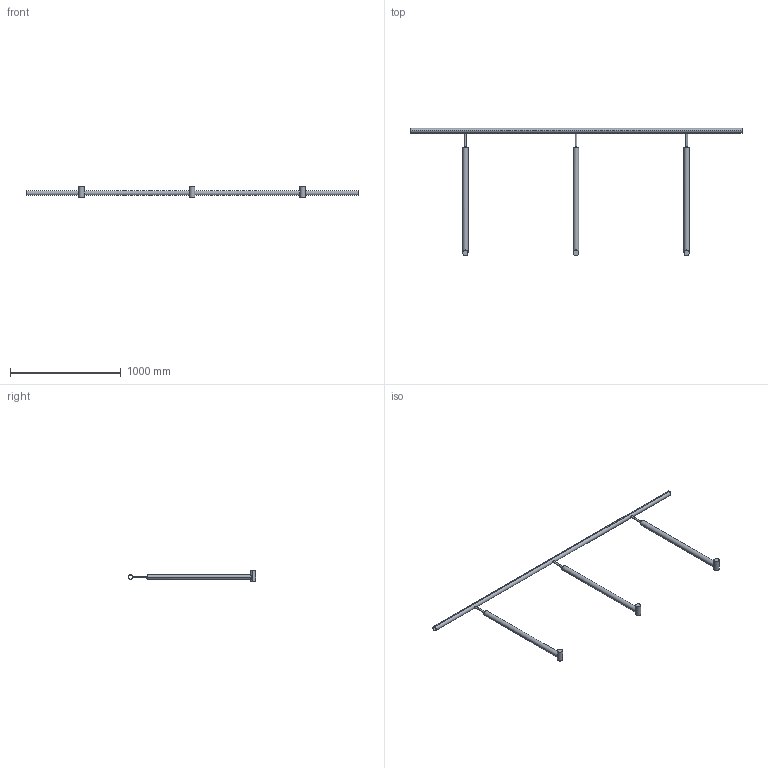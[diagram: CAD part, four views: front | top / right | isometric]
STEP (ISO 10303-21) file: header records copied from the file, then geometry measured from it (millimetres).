
FILE_DESCRIPTION((''),'2;1');
FILE_NAME('KAPITEL7_GF_ST','2020-04-05T',('CAD'),(''),'CREO PARAMETRIC BY PTC INC, 2017020','CREO PARAMETRIC BY PTC INC, 2017020','');
FILE_SCHEMA(('CONFIG_CONTROL_DESIGN'));
Length unit declared in the file: millimetre
Products named in the file (1): KAPITEL7_GF_ST
Bounding box: 3000 x 1150.35 x 100 mm (x, y, z)
Volume: 2460752 mm3; surface area: 1782631 mm2
Topology: 1 solids, 6 shells, 80 faces, 178 edges, 114 vertices
Faces by surface type: cylinder 36, plane 14, cone 12, bspline 12, torus 6
Entity records: 5367 total; most frequent: CARTESIAN_POINT 3603, DIRECTION 360, ORIENTED_EDGE 346, EDGE_CURVE 178, AXIS2_PLACEMENT_3D 155, VERTEX_POINT 114, EDGE_LOOP 88, CIRCLE 86
